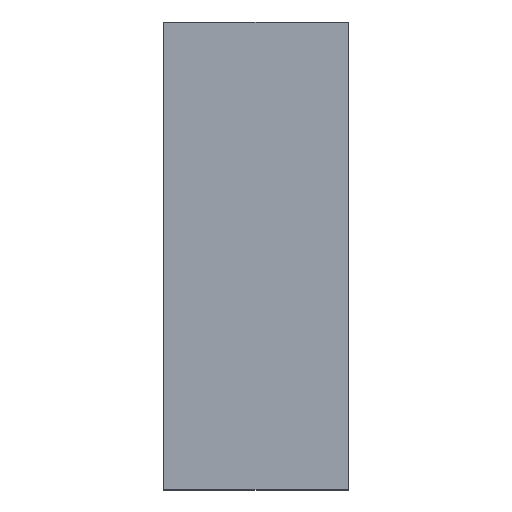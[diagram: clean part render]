
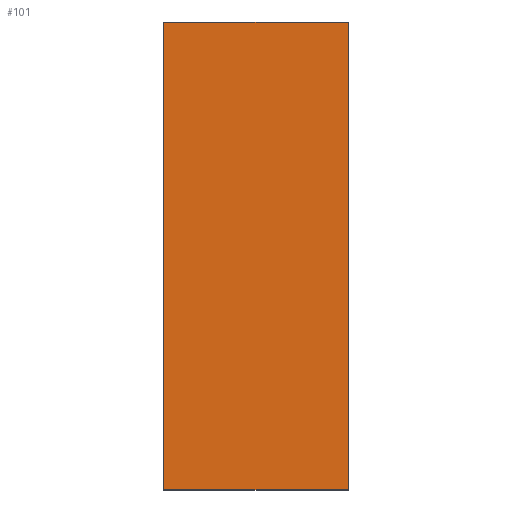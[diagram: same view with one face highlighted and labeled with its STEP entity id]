
A CAD part, top view. The second image highlights one B-rep face of the part: STEP entity #101.
In plain terms, the highlighted planar face has unit normal (0, 0, 1).
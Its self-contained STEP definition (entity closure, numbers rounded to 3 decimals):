
#74=AXIS2_PLACEMENT_3D('Plane Axis2P3D',#71,#72,#73) ;
#49=CARTESIAN_POINT('Vertex',(0.,0.,0.5)) ;
#52=CARTESIAN_POINT('Line Origine',(0.,6.35,0.5)) ;
#56=CARTESIAN_POINT('Vertex',(0.,12.7,0.5)) ;
#71=CARTESIAN_POINT('Axis2P3D Location',(5.,6.35,0.5)) ;
#76=CARTESIAN_POINT('Line Origine',(2.5,0.,0.5)) ;
#80=CARTESIAN_POINT('Vertex',(5.,0.,0.5)) ;
#83=CARTESIAN_POINT('Line Origine',(5.,6.35,0.5)) ;
#87=CARTESIAN_POINT('Vertex',(5.,12.7,0.5)) ;
#90=CARTESIAN_POINT('Line Origine',(2.5,12.7,0.5)) ;
#53=DIRECTION('Vector Direction',(0.,1.,0.)) ;
#72=DIRECTION('Axis2P3D Direction',(0.,0.,-1.)) ;
#73=DIRECTION('Axis2P3D XDirection',(-1.,0.,0.)) ;
#77=DIRECTION('Vector Direction',(-1.,0.,0.)) ;
#84=DIRECTION('Vector Direction',(0.,1.,0.)) ;
#91=DIRECTION('Vector Direction',(-1.,0.,0.)) ;
#54=VECTOR('Line Direction',#53,1.) ;
#78=VECTOR('Line Direction',#77,1.) ;
#85=VECTOR('Line Direction',#84,1.) ;
#92=VECTOR('Line Direction',#91,1.) ;
#96=ORIENTED_EDGE('',*,*,#58,.F.) ;
#97=ORIENTED_EDGE('',*,*,#82,.T.) ;
#98=ORIENTED_EDGE('',*,*,#89,.T.) ;
#99=ORIENTED_EDGE('',*,*,#94,.F.) ;
#101=ADVANCED_FACE('S3D - gedreht',(#100),#75,.F.) ;
#58=EDGE_CURVE('',#50,#57,#55,.T.) ;
#82=EDGE_CURVE('',#50,#81,#79,.F.) ;
#89=EDGE_CURVE('',#81,#88,#86,.T.) ;
#94=EDGE_CURVE('',#57,#88,#93,.F.) ;
#95=EDGE_LOOP('',(#96,#97,#98,#99)) ;
#100=FACE_OUTER_BOUND('',#95,.T.) ;
#55=LINE('Line',#52,#54) ;
#79=LINE('Line',#76,#78) ;
#86=LINE('Line',#83,#85) ;
#93=LINE('Line',#90,#92) ;
#75=PLANE('',#74) ;
#50=VERTEX_POINT('',#49) ;
#57=VERTEX_POINT('',#56) ;
#81=VERTEX_POINT('',#80) ;
#88=VERTEX_POINT('',#87) ;
